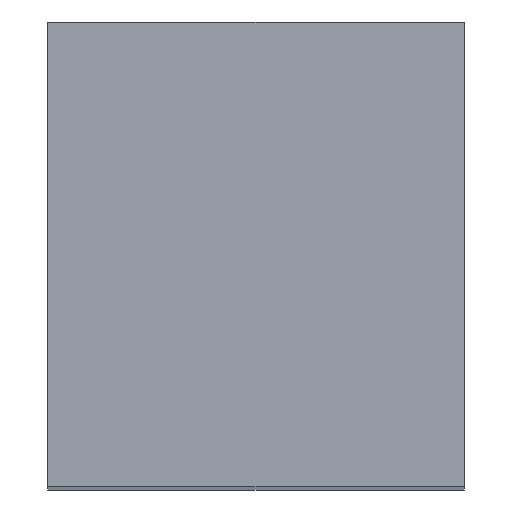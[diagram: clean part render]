
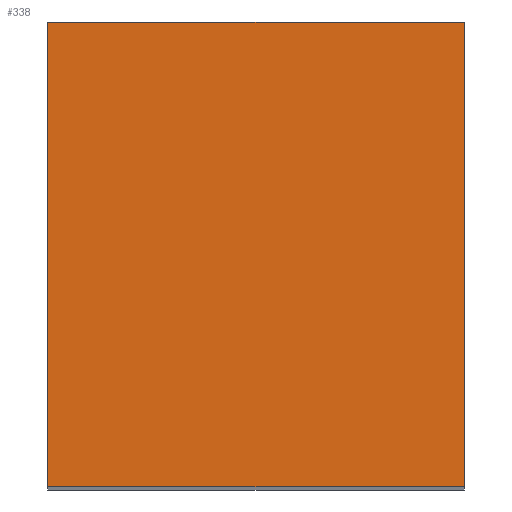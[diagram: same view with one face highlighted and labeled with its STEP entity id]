
A CAD part, top view. The second image highlights one B-rep face of the part: STEP entity #338.
In plain terms, the highlighted planar face has unit normal (0, 0, 1).
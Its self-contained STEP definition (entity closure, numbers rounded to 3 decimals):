
#24 = VERTEX_POINT('',#25);
#25 = CARTESIAN_POINT('',(4.7,1.45,27.54));
#32 = PLANE('',#33);
#33 = AXIS2_PLACEMENT_3D('',#34,#35,#36);
#34 = CARTESIAN_POINT('',(4.7,1.45,10.84));
#35 = DIRECTION('',(1.,0.,-0.));
#36 = DIRECTION('',(0.,0.,1.));
#44 = PLANE('',#45);
#45 = AXIS2_PLACEMENT_3D('',#46,#47,#48);
#46 = CARTESIAN_POINT('',(4.7,1.45,10.84));
#47 = DIRECTION('',(-0.,1.,0.));
#48 = DIRECTION('',(0.,0.,1.));
#85 = VERTEX_POINT('',#86);
#86 = CARTESIAN_POINT('',(4.7,5.35,27.54)
  );
#100 = PLANE('',#101);
#101 = AXIS2_PLACEMENT_3D('',#102,#103,#104);
#102 = CARTESIAN_POINT('',(4.7,5.35,10.84
    ));
#103 = DIRECTION('',(-0.,1.,0.));
#104 = DIRECTION('',(0.,0.,1.));
#112 = EDGE_CURVE('',#24,#85,#113,.T.);
#113 = SURFACE_CURVE('',#114,(#118,#125),.PCURVE_S1.);
#114 = LINE('',#115,#116);
#115 = CARTESIAN_POINT('',(4.7,1.45,27.54));
#116 = VECTOR('',#117,1.);
#117 = DIRECTION('',(-0.,1.,0.));
#118 = PCURVE('',#32,#119);
#119 = DEFINITIONAL_REPRESENTATION('',(#120),#124);
#120 = LINE('',#121,#122);
#121 = CARTESIAN_POINT('',(16.7,0.));
#122 = VECTOR('',#123,1.);
#123 = DIRECTION('',(0.,-1.));
#124 = ( GEOMETRIC_REPRESENTATION_CONTEXT(2) 
PARAMETRIC_REPRESENTATION_CONTEXT() REPRESENTATION_CONTEXT('2D SPACE',''
  ) );
#125 = PCURVE('',#126,#131);
#126 = PLANE('',#127);
#127 = AXIS2_PLACEMENT_3D('',#128,#129,#130);
#128 = CARTESIAN_POINT('',(4.7,1.45,27.54));
#129 = DIRECTION('',(0.,0.,1.));
#130 = DIRECTION('',(1.,0.,-0.));
#131 = DEFINITIONAL_REPRESENTATION('',(#132),#136);
#132 = LINE('',#133,#134);
#133 = CARTESIAN_POINT('',(0.,0.));
#134 = VECTOR('',#135,1.);
#135 = DIRECTION('',(0.,1.));
#136 = ( GEOMETRIC_REPRESENTATION_CONTEXT(2) 
PARAMETRIC_REPRESENTATION_CONTEXT() REPRESENTATION_CONTEXT('2D SPACE',''
  ) );
#144 = VERTEX_POINT('',#145);
#145 = CARTESIAN_POINT('',(8.2,1.45,27.54));
#152 = PLANE('',#153);
#153 = AXIS2_PLACEMENT_3D('',#154,#155,#156);
#154 = CARTESIAN_POINT('',(8.2,1.45,10.84));
#155 = DIRECTION('',(1.,0.,-0.));
#156 = DIRECTION('',(0.,0.,1.));
#195 = VERTEX_POINT('',#196);
#196 = CARTESIAN_POINT('',(8.2,5.35,27.54
    ));
#217 = EDGE_CURVE('',#144,#195,#218,.T.);
#218 = SURFACE_CURVE('',#219,(#223,#230),.PCURVE_S1.);
#219 = LINE('',#220,#221);
#220 = CARTESIAN_POINT('',(8.2,1.45,27.54));
#221 = VECTOR('',#222,1.);
#222 = DIRECTION('',(-0.,1.,0.));
#223 = PCURVE('',#152,#224);
#224 = DEFINITIONAL_REPRESENTATION('',(#225),#229);
#225 = LINE('',#226,#227);
#226 = CARTESIAN_POINT('',(16.7,0.));
#227 = VECTOR('',#228,1.);
#228 = DIRECTION('',(0.,-1.));
#229 = ( GEOMETRIC_REPRESENTATION_CONTEXT(2) 
PARAMETRIC_REPRESENTATION_CONTEXT() REPRESENTATION_CONTEXT('2D SPACE',''
  ) );
#230 = PCURVE('',#126,#231);
#231 = DEFINITIONAL_REPRESENTATION('',(#232),#236);
#232 = LINE('',#233,#234);
#233 = CARTESIAN_POINT('',(3.5,0.));
#234 = VECTOR('',#235,1.);
#235 = DIRECTION('',(0.,1.));
#236 = ( GEOMETRIC_REPRESENTATION_CONTEXT(2) 
PARAMETRIC_REPRESENTATION_CONTEXT() REPRESENTATION_CONTEXT('2D SPACE',''
  ) );
#263 = EDGE_CURVE('',#24,#144,#264,.T.);
#264 = SURFACE_CURVE('',#265,(#269,#276),.PCURVE_S1.);
#265 = LINE('',#266,#267);
#266 = CARTESIAN_POINT('',(4.7,1.45,27.54));
#267 = VECTOR('',#268,1.);
#268 = DIRECTION('',(1.,0.,-0.));
#269 = PCURVE('',#44,#270);
#270 = DEFINITIONAL_REPRESENTATION('',(#271),#275);
#271 = LINE('',#272,#273);
#272 = CARTESIAN_POINT('',(16.7,0.));
#273 = VECTOR('',#274,1.);
#274 = DIRECTION('',(0.,1.));
#275 = ( GEOMETRIC_REPRESENTATION_CONTEXT(2) 
PARAMETRIC_REPRESENTATION_CONTEXT() REPRESENTATION_CONTEXT('2D SPACE',''
  ) );
#276 = PCURVE('',#126,#277);
#277 = DEFINITIONAL_REPRESENTATION('',(#278),#282);
#278 = LINE('',#279,#280);
#279 = CARTESIAN_POINT('',(0.,0.));
#280 = VECTOR('',#281,1.);
#281 = DIRECTION('',(1.,0.));
#282 = ( GEOMETRIC_REPRESENTATION_CONTEXT(2) 
PARAMETRIC_REPRESENTATION_CONTEXT() REPRESENTATION_CONTEXT('2D SPACE',''
  ) );
#310 = EDGE_CURVE('',#85,#195,#311,.T.);
#311 = SURFACE_CURVE('',#312,(#316,#323),.PCURVE_S1.);
#312 = LINE('',#313,#314);
#313 = CARTESIAN_POINT('',(4.7,5.35,27.54
    ));
#314 = VECTOR('',#315,1.);
#315 = DIRECTION('',(1.,0.,-0.));
#316 = PCURVE('',#100,#317);
#317 = DEFINITIONAL_REPRESENTATION('',(#318),#322);
#318 = LINE('',#319,#320);
#319 = CARTESIAN_POINT('',(16.7,0.));
#320 = VECTOR('',#321,1.);
#321 = DIRECTION('',(0.,1.));
#322 = ( GEOMETRIC_REPRESENTATION_CONTEXT(2) 
PARAMETRIC_REPRESENTATION_CONTEXT() REPRESENTATION_CONTEXT('2D SPACE',''
  ) );
#323 = PCURVE('',#126,#324);
#324 = DEFINITIONAL_REPRESENTATION('',(#325),#329);
#325 = LINE('',#326,#327);
#326 = CARTESIAN_POINT('',(0.,3.9));
#327 = VECTOR('',#328,1.);
#328 = DIRECTION('',(1.,0.));
#329 = ( GEOMETRIC_REPRESENTATION_CONTEXT(2) 
PARAMETRIC_REPRESENTATION_CONTEXT() REPRESENTATION_CONTEXT('2D SPACE',''
  ) );
#338 = ADVANCED_FACE('',(#339),#126,.T.);
#339 = FACE_BOUND('',#340,.T.);
#340 = EDGE_LOOP('',(#341,#342,#343,#344));
#341 = ORIENTED_EDGE('',*,*,#112,.F.);
#342 = ORIENTED_EDGE('',*,*,#263,.T.);
#343 = ORIENTED_EDGE('',*,*,#217,.T.);
#344 = ORIENTED_EDGE('',*,*,#310,.F.);
